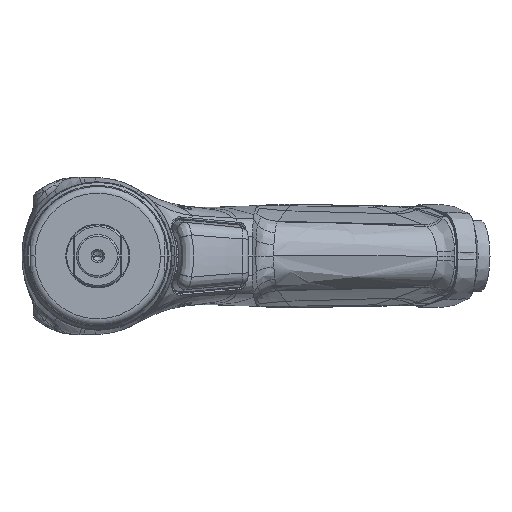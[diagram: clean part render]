
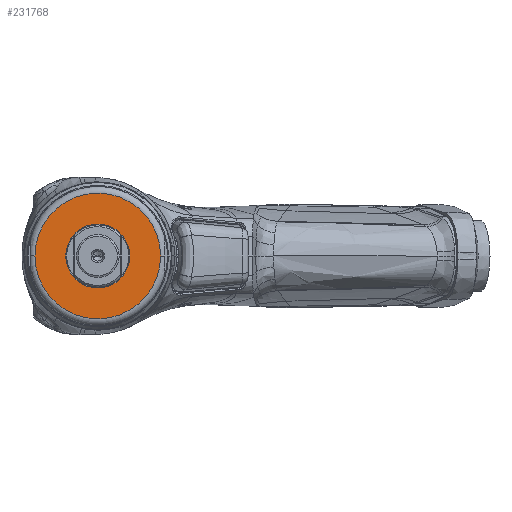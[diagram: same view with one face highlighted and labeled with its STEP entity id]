
A CAD part, left-side view. The second image highlights one B-rep face of the part: STEP entity #231768.
In plain terms, the highlighted planar face has unit normal (-1, 0, 0) as drawn and (1, 0, 0) by its records, which use the part's own axes.
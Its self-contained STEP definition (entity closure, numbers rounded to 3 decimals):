
#231135=CARTESIAN_POINT('',(11.,0.,0.));
#231136=DIRECTION('',(-1.,0.,0.));
#231137=DIRECTION('',(0.,1.,0.));
#231138=AXIS2_PLACEMENT_3D('',#231135,#231136,#231137);
#231143=CARTESIAN_POINT('',(11.,0.,0.));
#231144=DIRECTION('',(1.,0.,0.));
#231145=DIRECTION('',(0.,1.,0.));
#231146=AXIS2_PLACEMENT_3D('',#231143,#231144,#231145);
#231151=CARTESIAN_POINT('',(11.,0.,0.));
#231152=DIRECTION('',(-1.,0.,0.));
#231153=DIRECTION('',(0.,1.,0.));
#231154=AXIS2_PLACEMENT_3D('',#231151,#231152,#231153);
#231159=CARTESIAN_POINT('',(11.,0.,0.));
#231160=DIRECTION('',(-1.,0.,0.));
#231161=DIRECTION('',(0.,-1.,0.));
#231162=AXIS2_PLACEMENT_3D('',#231159,#231160,#231161);
#231488=CARTESIAN_POINT('',(11.,9.5,0.));
#231490=VERTEX_POINT('',#231488);
#231496=CARTESIAN_POINT('',(11.,-9.5,0.));
#231498=VERTEX_POINT('',#231496);
#231523=CARTESIAN_POINT('',(11.,18.65,0.));
#231524=CARTESIAN_POINT('',(11.,-18.65,0.));
#231525=VERTEX_POINT('',#231523);
#231526=VERTEX_POINT('',#231524);
#231753=CARTESIAN_POINT('',(11.,0.,0.));
#231754=DIRECTION('',(1.,0.,0.));
#231755=DIRECTION('',(0.,-1.,0.));
#231756=AXIS2_PLACEMENT_3D('',#231753,#231754,#231755);
#231757=PLANE('',#231756);
#231759=ORIENTED_EDGE('',*,*,#231758,.T.);
#231761=ORIENTED_EDGE('',*,*,#231760,.T.);
#231762=EDGE_LOOP('',(#231759,#231761));
#231763=FACE_OUTER_BOUND('',#231762,.F.);
#231764=ORIENTED_EDGE('',*,*,#231746,.F.);
#231765=ORIENTED_EDGE('',*,*,#231735,.T.);
#231766=EDGE_LOOP('',(#231764,#231765));
#231767=FACE_BOUND('',#231766,.F.);
#231139=CIRCLE('',#231138,9.5);
#231147=CIRCLE('',#231146,9.5);
#231155=CIRCLE('',#231154,18.65);
#231163=CIRCLE('',#231162,18.65);
#231735=EDGE_CURVE('',#231490,#231498,#231147,.T.);
#231746=EDGE_CURVE('',#231490,#231498,#231139,.T.);
#231758=EDGE_CURVE('',#231525,#231526,#231155,.T.);
#231760=EDGE_CURVE('',#231526,#231525,#231163,.T.);
#231768=ADVANCED_FACE('',(#231763,#231767),#231757,.T.);
